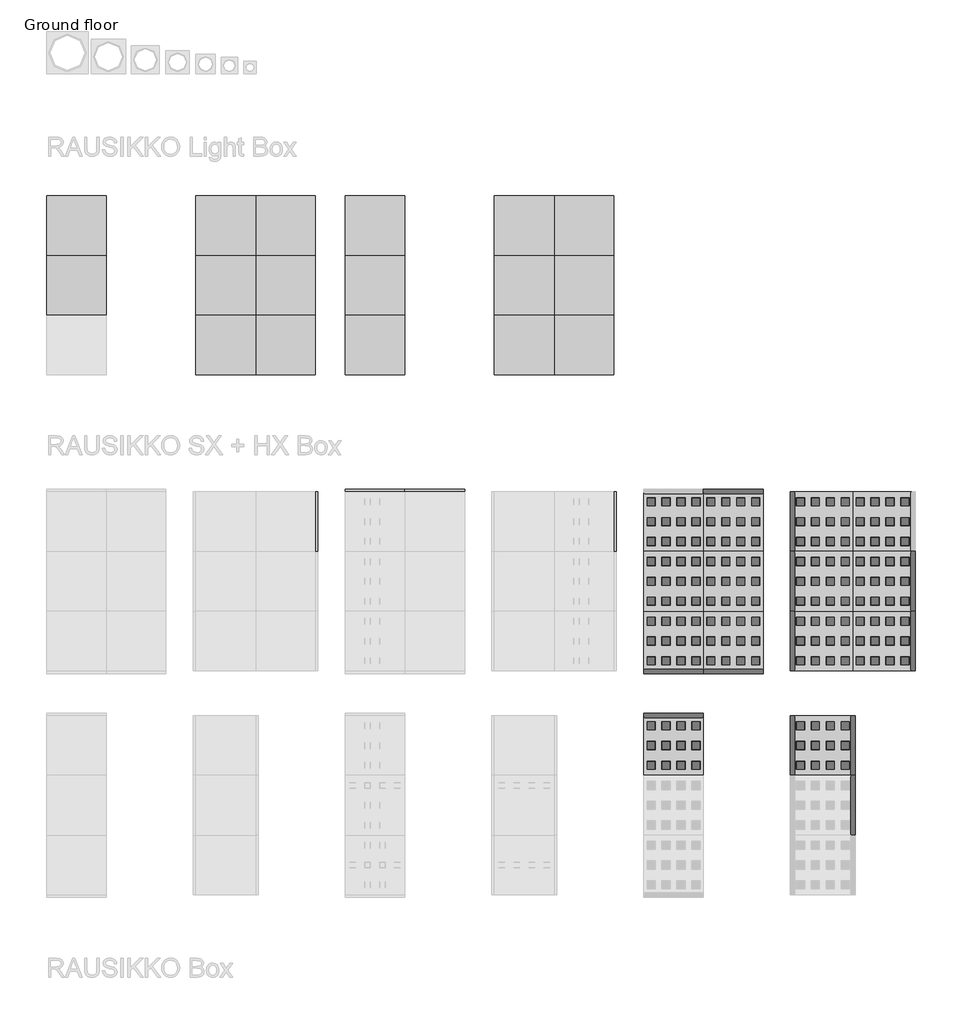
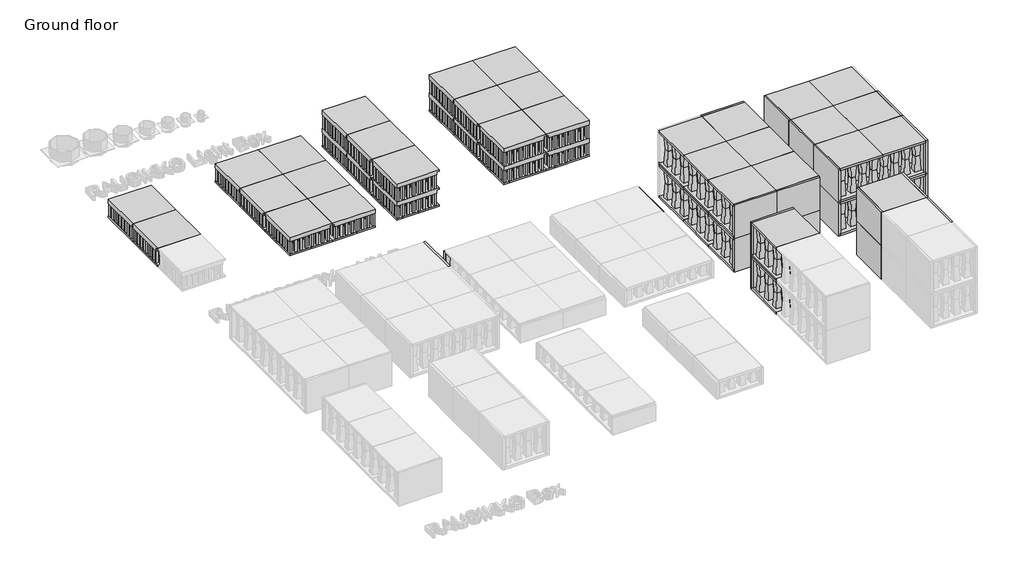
# One storey, part 8 of 14: 126 proxies.
"""IFC4 building model written with IfcOpenShell, lengths in millimetres."""

from ifc_helpers import new_model, si_unit, origin, place, context, project, spatial, transform, mapped, element, save
from components import generic_models_b9a53e04, generic_models_6f5a1653, generic_models_e933ea50, generic_models_dbaa58b3, rsk_element_fa4f0fc6, rsk_element_782520f1, rsk_sideelement_9117403f, rsk_sideelement_a1a50405

model = new_model("IFC4")

# Units and contexts
model_context = context("Model", 3, world=origin())
ifc_project = project(units=[si_unit("LENGTHUNIT", "METRE", prefix="MILLI")], contexts=[model_context])

# Site, building, storey
site = spatial("IfcSite", under=ifc_project)
building = spatial("IfcBuilding", under=site)
storey = spatial("IfcBuildingStorey", under=building, Name="Ground floor", Elevation=0.0)

# Proxies
placement = place(None, origin())
generic_models_shape = generic_models_b9a53e04(model_context)
element("IfcBuildingElementProxy", 1, Name="RSK LT Element : RSK LT Element", ObjectType="RSK LT Element : RSK LT Element", at=placement, inside=storey, context=model_context, shape_type="MappedRepresentation", body=[
    mapped(generic_models_shape, transform((0.0, 14765.0, 2.0), x_axis=(1.0, 0.0, 0.0), y_axis=(0.0, 1.0, 0.0), z_axis=(0.0, 0.0, 1.0))),
])
element("IfcBuildingElementProxy", 2, Name="RSK LT Element : RSK LT Element", ObjectType="RSK LT Element : RSK LT Element", at=placement, inside=storey, context=model_context, shape_type="MappedRepresentation", body=[
    mapped(generic_models_shape, transform((0.0, 15565.0, 2.0), x_axis=(1.0, 0.0, 0.0), y_axis=(0.0, 1.0, 0.0), z_axis=(0.0, 0.0, 1.0))),
])
element("IfcBuildingElementProxy", 3, Name="RSK LT Element : RSK LT Element", ObjectType="RSK LT Element : RSK LT Element", at=placement, inside=storey, context=model_context, shape_type="MappedRepresentation", body=[
    mapped(generic_models_shape, transform((2800.0, 13965.0, 2.0), x_axis=(0.0, 1.0, 0.0), y_axis=(-1.0, 0.0, 0.0), z_axis=(0.0, 0.0, 1.0))),
])
element("IfcBuildingElementProxy", 4, Name="RSK LT Element : RSK LT Element", ObjectType="RSK LT Element : RSK LT Element", at=placement, inside=storey, context=model_context, shape_type="MappedRepresentation", body=[
    mapped(generic_models_shape, transform((2000.0, 14765.0, 2.0), x_axis=(1.0, 0.0, 0.0), y_axis=(0.0, 1.0, 0.0), z_axis=(0.0, 0.0, 1.0))),
])
element("IfcBuildingElementProxy", 5, Name="RSK LT Element : RSK LT Element", ObjectType="RSK LT Element : RSK LT Element", at=placement, inside=storey, context=model_context, shape_type="MappedRepresentation", body=[
    mapped(generic_models_shape, transform((2000.0, 15565.0, 2.0), x_axis=(1.0, 0.0, 0.0), y_axis=(0.0, 1.0, 0.0), z_axis=(0.0, 0.0, 1.0))),
])
element("IfcBuildingElementProxy", 6, Name="RSK LT Element : RSK LT Element", ObjectType="RSK LT Element : RSK LT Element", at=placement, inside=storey, context=model_context, shape_type="MappedRepresentation", body=[
    mapped(generic_models_shape, transform((6800.0, 13965.0, 359.5), x_axis=(0.0, 1.0, 0.0), y_axis=(-1.0, 0.0, 0.0), z_axis=(0.0, 0.0, 1.0))),
])
element("IfcBuildingElementProxy", 7, Name="RSK LT Element : RSK LT Element", ObjectType="RSK LT Element : RSK LT Element", at=placement, inside=storey, context=model_context, shape_type="MappedRepresentation", body=[
    mapped(generic_models_shape, transform((4800.0, 13965.0, 2.0), x_axis=(0.0, 1.0, 0.0), y_axis=(-1.0, 0.0, 0.0), z_axis=(0.0, 0.0, 1.0))),
])
element("IfcBuildingElementProxy", 8, Name="RSK LT Element : RSK LT Element", ObjectType="RSK LT Element : RSK LT Element", at=placement, inside=storey, context=model_context, shape_type="MappedRepresentation", body=[
    mapped(generic_models_shape, transform((4800.0, 13965.0, 359.5), x_axis=(0.0, 1.0, 0.0), y_axis=(-1.0, 0.0, 0.0), z_axis=(0.0, 0.0, 1.0))),
])
element("IfcBuildingElementProxy", 9, Name="RSK LT Element : RSK LT Element", ObjectType="RSK LT Element : RSK LT Element", at=placement, inside=storey, context=model_context, shape_type="MappedRepresentation", body=[
    mapped(generic_models_shape, transform((4000.0, 14765.0, 2.0), x_axis=(1.0, 0.0, 0.0), y_axis=(0.0, 1.0, 0.0), z_axis=(0.0, 0.0, 1.0))),
])
element("IfcBuildingElementProxy", 10, Name="RSK LT Element : RSK LT Element", ObjectType="RSK LT Element : RSK LT Element", at=placement, inside=storey, context=model_context, shape_type="MappedRepresentation", body=[
    mapped(generic_models_shape, transform((6800.0, 13965.0, 2.0), x_axis=(0.0, 1.0, 0.0), y_axis=(-1.0, 0.0, 0.0), z_axis=(0.0, 0.0, 1.0))),
])
element("IfcBuildingElementProxy", 11, Name="RSK LT Element : RSK LT Element", ObjectType="RSK LT Element : RSK LT Element", at=placement, inside=storey, context=model_context, shape_type="MappedRepresentation", body=[
    mapped(generic_models_shape, transform((6000.0, 14765.0, 2.0), x_axis=(1.0, 0.0, 0.0), y_axis=(0.0, 1.0, 0.0), z_axis=(0.0, 0.0, 1.0))),
])
element("IfcBuildingElementProxy", 12, Name="RSK LT Element : RSK LT Element", ObjectType="RSK LT Element : RSK LT Element", at=placement, inside=storey, context=model_context, shape_type="MappedRepresentation", body=[
    mapped(generic_models_shape, transform((6000.0, 15565.0, 2.0), x_axis=(1.0, 0.0, 0.0), y_axis=(0.0, 1.0, 0.0), z_axis=(0.0, 0.0, 1.0))),
])
element("IfcBuildingElementProxy", 13, Name="RSK LT Element : RSK LT Element", ObjectType="RSK LT Element : RSK LT Element", at=placement, inside=storey, context=model_context, shape_type="MappedRepresentation", body=[
    mapped(generic_models_shape, transform((6000.0, 14765.0, 359.5), x_axis=(1.0, 0.0, 0.0), y_axis=(0.0, 1.0, 0.0), z_axis=(0.0, 0.0, 1.0))),
])
element("IfcBuildingElementProxy", 14, Name="RSK LT Element : RSK LT Element", ObjectType="RSK LT Element : RSK LT Element", at=placement, inside=storey, context=model_context, shape_type="MappedRepresentation", body=[
    mapped(generic_models_shape, transform((6000.0, 15565.0, 359.5), x_axis=(1.0, 0.0, 0.0), y_axis=(0.0, 1.0, 0.0), z_axis=(0.0, 0.0, 1.0))),
])
element("IfcBuildingElementProxy", 15, Name="RSK LT Element : RSK LT Element", ObjectType="RSK LT Element : RSK LT Element", at=placement, inside=storey, context=model_context, shape_type="MappedRepresentation", body=[
    mapped(generic_models_shape, transform((4000.0, 15565.0, 2.0), x_axis=(1.0, 0.0, 0.0), y_axis=(0.0, 1.0, 0.0), z_axis=(0.0, 0.0, 1.0))),
])
element("IfcBuildingElementProxy", 16, Name="RSK LT Element : RSK LT Element", ObjectType="RSK LT Element : RSK LT Element", at=placement, inside=storey, context=model_context, shape_type="MappedRepresentation", body=[
    mapped(generic_models_shape, transform((4000.0, 14765.0, 359.5), x_axis=(1.0, 0.0, 0.0), y_axis=(0.0, 1.0, 0.0), z_axis=(0.0, 0.0, 1.0))),
])
element("IfcBuildingElementProxy", 17, Name="RSK LT Element : RSK LT Element", ObjectType="RSK LT Element : RSK LT Element", at=placement, inside=storey, context=model_context, shape_type="MappedRepresentation", body=[
    mapped(generic_models_shape, transform((4000.0, 15565.0, 359.5), x_axis=(1.0, 0.0, 0.0), y_axis=(0.0, 1.0, 0.0), z_axis=(0.0, 0.0, 1.0))),
])
generic_models_2_shape = generic_models_6f5a1653(model_context)
element("IfcBuildingElementProxy", 18, Name="RSK LT BaseElement : RSK LT Element", ObjectType="RSK LT BaseElement : RSK LT Element", at=placement, inside=storey, context=model_context, shape_type="MappedRepresentation", body=[
    mapped(generic_models_2_shape, transform((0.0, 14765.0, 0.0), x_axis=(1.0, 0.0, 0.0), y_axis=(0.0, 1.0, 0.0), z_axis=(0.0, 0.0, 1.0))),
])
element("IfcBuildingElementProxy", 19, Name="RSK LT BaseElement : RSK LT Element", ObjectType="RSK LT BaseElement : RSK LT Element", at=placement, inside=storey, context=model_context, shape_type="MappedRepresentation", body=[
    mapped(generic_models_2_shape, transform((0.0, 15565.0, 0.0), x_axis=(1.0, 0.0, 0.0), y_axis=(0.0, 1.0, 0.0), z_axis=(0.0, 0.0, 1.0))),
])
element("IfcBuildingElementProxy", 20, Name="RSK LT BaseElement : RSK LT Element", ObjectType="RSK LT BaseElement : RSK LT Element", at=placement, inside=storey, context=model_context, shape_type="MappedRepresentation", body=[
    mapped(generic_models_2_shape, transform((2800.0, 13965.0, 0.0), x_axis=(0.0, 1.0, 0.0), y_axis=(-1.0, 0.0, 0.0), z_axis=(0.0, 0.0, 1.0))),
])
element("IfcBuildingElementProxy", 21, Name="RSK LT BaseElement : RSK LT Element", ObjectType="RSK LT BaseElement : RSK LT Element", at=placement, inside=storey, context=model_context, shape_type="MappedRepresentation", body=[
    mapped(generic_models_2_shape, transform((2000.0, 14765.0, 0.0), x_axis=(1.0, 0.0, 0.0), y_axis=(0.0, 1.0, 0.0), z_axis=(0.0, 0.0, 1.0))),
])
element("IfcBuildingElementProxy", 22, Name="RSK LT BaseElement : RSK LT Element", ObjectType="RSK LT BaseElement : RSK LT Element", at=placement, inside=storey, context=model_context, shape_type="MappedRepresentation", body=[
    mapped(generic_models_2_shape, transform((2000.0, 15565.0, 0.0), x_axis=(1.0, 0.0, 0.0), y_axis=(0.0, 1.0, 0.0), z_axis=(0.0, 0.0, 1.0))),
])
element("IfcBuildingElementProxy", 23, Name="RSK LT BaseElement : RSK LT Element", ObjectType="RSK LT BaseElement : RSK LT Element", at=placement, inside=storey, context=model_context, shape_type="MappedRepresentation", body=[
    mapped(generic_models_2_shape, transform((6800.0, 13965.0, 0.0), x_axis=(0.0, 1.0, 0.0), y_axis=(-1.0, 0.0, 0.0), z_axis=(0.0, 0.0, 1.0))),
])
element("IfcBuildingElementProxy", 24, Name="RSK LT BaseElement : RSK LT Element", ObjectType="RSK LT BaseElement : RSK LT Element", at=placement, inside=storey, context=model_context, shape_type="MappedRepresentation", body=[
    mapped(generic_models_2_shape, transform((4800.0, 13965.0, 0.0), x_axis=(0.0, 1.0, 0.0), y_axis=(-1.0, 0.0, 0.0), z_axis=(0.0, 0.0, 1.0))),
])
element("IfcBuildingElementProxy", 25, Name="RSK LT BaseElement : RSK LT Element", ObjectType="RSK LT BaseElement : RSK LT Element", at=placement, inside=storey, context=model_context, shape_type="MappedRepresentation", body=[
    mapped(generic_models_2_shape, transform((4000.0, 14765.0, 0.0), x_axis=(1.0, 0.0, 0.0), y_axis=(0.0, 1.0, 0.0), z_axis=(0.0, 0.0, 1.0))),
])
element("IfcBuildingElementProxy", 26, Name="RSK LT BaseElement : RSK LT Element", ObjectType="RSK LT BaseElement : RSK LT Element", at=placement, inside=storey, context=model_context, shape_type="MappedRepresentation", body=[
    mapped(generic_models_2_shape, transform((4000.0, 15565.0, 0.0), x_axis=(1.0, 0.0, 0.0), y_axis=(0.0, 1.0, 0.0), z_axis=(0.0, 0.0, 1.0))),
])
element("IfcBuildingElementProxy", 27, Name="RSK LT BaseElement : RSK LT Element", ObjectType="RSK LT BaseElement : RSK LT Element", at=placement, inside=storey, context=model_context, shape_type="MappedRepresentation", body=[
    mapped(generic_models_2_shape, transform((6000.0, 14765.0, 0.0), x_axis=(1.0, 0.0, 0.0), y_axis=(0.0, 1.0, 0.0), z_axis=(0.0, 0.0, 1.0))),
])
element("IfcBuildingElementProxy", 28, Name="RSK LT BaseElement : RSK LT Element", ObjectType="RSK LT BaseElement : RSK LT Element", at=placement, inside=storey, context=model_context, shape_type="MappedRepresentation", body=[
    mapped(generic_models_2_shape, transform((6000.0, 15565.0, 0.0), x_axis=(1.0, 0.0, 0.0), y_axis=(0.0, 1.0, 0.0), z_axis=(0.0, 0.0, 1.0))),
])
generic_models_3_shape = generic_models_e933ea50(model_context)
element("IfcBuildingElementProxy", 29, Name="RSK LT Element : RSK LT Element", ObjectType="RSK LT Element : RSK LT Element", at=placement, inside=storey, context=model_context, shape_type="MappedRepresentation", body=[
    mapped(generic_models_3_shape, transform((2800.0, 13965.0, 2.0), x_axis=(0.0, 1.0, 0.0), y_axis=(-1.0, 0.0, 0.0), z_axis=(0.0, 0.0, 1.0))),
])
element("IfcBuildingElementProxy", 30, Name="RSK LT Element : RSK LT Element", ObjectType="RSK LT Element : RSK LT Element", at=placement, inside=storey, context=model_context, shape_type="MappedRepresentation", body=[
    mapped(generic_models_3_shape, transform((6800.0, 13965.0, 359.5), x_axis=(0.0, 1.0, 0.0), y_axis=(-1.0, 0.0, 0.0), z_axis=(0.0, 0.0, 1.0))),
])
element("IfcBuildingElementProxy", 31, Name="RSK LT Element : RSK LT Element", ObjectType="RSK LT Element : RSK LT Element", at=placement, inside=storey, context=model_context, shape_type="MappedRepresentation", body=[
    mapped(generic_models_3_shape, transform((6800.0, 13965.0, 2.0), x_axis=(0.0, 1.0, 0.0), y_axis=(-1.0, 0.0, 0.0), z_axis=(0.0, 0.0, 1.0))),
])
element("IfcBuildingElementProxy", 32, Name="RSK LT Element : RSK LT Element", ObjectType="RSK LT Element : RSK LT Element", at=placement, inside=storey, context=model_context, shape_type="MappedRepresentation", body=[
    mapped(generic_models_3_shape, transform((3600.0, 14765.0, 2.0), x_axis=(-1.0, 0.0, 0.0), y_axis=(0.0, -1.0, 0.0), z_axis=(0.0, 0.0, 1.0))),
])
element("IfcBuildingElementProxy", 33, Name="RSK LT Element : RSK LT Element", ObjectType="RSK LT Element : RSK LT Element", at=placement, inside=storey, context=model_context, shape_type="MappedRepresentation", body=[
    mapped(generic_models_3_shape, transform((3600.0, 15565.0, 2.0), x_axis=(-1.0, 0.0, 0.0), y_axis=(0.0, -1.0, 0.0), z_axis=(0.0, 0.0, 1.0))),
])
element("IfcBuildingElementProxy", 34, Name="RSK LT Element : RSK LT Element", ObjectType="RSK LT Element : RSK LT Element", at=placement, inside=storey, context=model_context, shape_type="MappedRepresentation", body=[
    mapped(generic_models_3_shape, transform((7600.0, 14765.0, 2.0), x_axis=(-1.0, 0.0, 0.0), y_axis=(0.0, -1.0, 0.0), z_axis=(0.0, 0.0, 1.0))),
])
element("IfcBuildingElementProxy", 35, Name="RSK LT Element : RSK LT Element", ObjectType="RSK LT Element : RSK LT Element", at=placement, inside=storey, context=model_context, shape_type="MappedRepresentation", body=[
    mapped(generic_models_3_shape, transform((7600.0, 15565.0, 2.0), x_axis=(-1.0, 0.0, 0.0), y_axis=(0.0, -1.0, 0.0), z_axis=(0.0, 0.0, 1.0))),
])
element("IfcBuildingElementProxy", 36, Name="RSK LT Element : RSK LT Element", ObjectType="RSK LT Element : RSK LT Element", at=placement, inside=storey, context=model_context, shape_type="MappedRepresentation", body=[
    mapped(generic_models_3_shape, transform((7600.0, 14765.0, 359.5), x_axis=(-1.0, 0.0, 0.0), y_axis=(0.0, -1.0, 0.0), z_axis=(0.0, 0.0, 1.0))),
])
element("IfcBuildingElementProxy", 37, Name="RSK LT Element : RSK LT Element", ObjectType="RSK LT Element : RSK LT Element", at=placement, inside=storey, context=model_context, shape_type="MappedRepresentation", body=[
    mapped(generic_models_3_shape, transform((7600.0, 15565.0, 359.5), x_axis=(-1.0, 0.0, 0.0), y_axis=(0.0, -1.0, 0.0), z_axis=(0.0, 0.0, 1.0))),
])
generic_models_4_shape = generic_models_dbaa58b3(model_context)
element("IfcBuildingElementProxy", 38, Name="RSK LT BaseElement : RSK LT Element", ObjectType="RSK LT BaseElement : RSK LT Element", at=placement, inside=storey, context=model_context, shape_type="MappedRepresentation", body=[
    mapped(generic_models_4_shape, transform((2800.0, 13965.0, 0.0), x_axis=(0.0, 1.0, 0.0), y_axis=(-1.0, 0.0, 0.0), z_axis=(0.0, 0.0, 1.0))),
])
element("IfcBuildingElementProxy", 39, Name="RSK LT BaseElement : RSK LT Element", ObjectType="RSK LT BaseElement : RSK LT Element", at=placement, inside=storey, context=model_context, shape_type="MappedRepresentation", body=[
    mapped(generic_models_4_shape, transform((3600.0, 14765.0, 0.0), x_axis=(-1.0, 0.0, 0.0), y_axis=(0.0, -1.0, 0.0), z_axis=(0.0, 0.0, 1.0))),
])
element("IfcBuildingElementProxy", 40, Name="RSK LT BaseElement : RSK LT Element", ObjectType="RSK LT BaseElement : RSK LT Element", at=placement, inside=storey, context=model_context, shape_type="MappedRepresentation", body=[
    mapped(generic_models_4_shape, transform((6800.0, 13965.0, 0.0), x_axis=(0.0, 1.0, 0.0), y_axis=(-1.0, 0.0, 0.0), z_axis=(0.0, 0.0, 1.0))),
])
element("IfcBuildingElementProxy", 41, Name="RSK LT BaseElement : RSK LT Element", ObjectType="RSK LT BaseElement : RSK LT Element", at=placement, inside=storey, context=model_context, shape_type="MappedRepresentation", body=[
    mapped(generic_models_4_shape, transform((7600.0, 14765.0, 0.0), x_axis=(-1.0, 0.0, 0.0), y_axis=(0.0, -1.0, 0.0), z_axis=(0.0, 0.0, 1.0))),
])
element("IfcBuildingElementProxy", 42, Name="RSK LT BaseElement : RSK LT Element", ObjectType="RSK LT BaseElement : RSK LT Element", at=placement, inside=storey, context=model_context, shape_type="MappedRepresentation", body=[
    mapped(generic_models_4_shape, transform((3600.0, 15565.0, 0.0), x_axis=(-1.0, 0.0, 0.0), y_axis=(0.0, -1.0, 0.0), z_axis=(0.0, 0.0, 1.0))),
])
element("IfcBuildingElementProxy", 43, Name="RSK LT BaseElement : RSK LT Element", ObjectType="RSK LT BaseElement : RSK LT Element", at=placement, inside=storey, context=model_context, shape_type="MappedRepresentation", body=[
    mapped(generic_models_4_shape, transform((7600.0, 15565.0, 0.0), x_axis=(-1.0, 0.0, 0.0), y_axis=(0.0, -1.0, 0.0), z_axis=(0.0, 0.0, 1.0))),
])
rsk_element_shape = rsk_element_fa4f0fc6(model_context)
element("IfcBuildingElementProxy", 44, Name="RAUSIKKO SX+HX Element : RSK Element", ObjectType="RAUSIKKO SX+HX Element : RSK Element", at=placement, inside=storey, context=model_context, shape_type="MappedRepresentation", body=[
    mapped(rsk_element_shape, transform((8000.0, 8600.0, 660.0), x_axis=(1.0, 0.0, 0.0), y_axis=(0.0, -1.0, 0.0), z_axis=(0.0, 0.0, -1.0))),
])
element("IfcBuildingElementProxy", 45, Name="RAUSIKKO SX+HX Element : RSK Element", ObjectType="RAUSIKKO SX+HX Element : RSK Element", at=placement, inside=storey, context=model_context, shape_type="MappedRepresentation", body=[
    mapped(rsk_element_shape, transform((8000.0, 8600.0, 1320.0), x_axis=(1.0, 0.0, 0.0), y_axis=(0.0, -1.0, 0.0), z_axis=(0.0, 0.0, -1.0))),
])
element("IfcBuildingElementProxy", 46, Name="RAUSIKKO SX+HX Element : RSK Element", ObjectType="RAUSIKKO SX+HX Element : RSK Element", at=placement, inside=storey, context=model_context, shape_type="MappedRepresentation", body=[
    mapped(rsk_element_shape, transform((8000.0, 10000.0, 1320.0), x_axis=(1.0, 0.0, 0.0), y_axis=(0.0, -1.0, 0.0), z_axis=(0.0, 0.0, -1.0))),
])
element("IfcBuildingElementProxy", 47, Name="RAUSIKKO SX+HX Element : RSK Element", ObjectType="RAUSIKKO SX+HX Element : RSK Element", at=placement, inside=storey, context=model_context, shape_type="MappedRepresentation", body=[
    mapped(rsk_element_shape, transform((8000.0, 11600.0, 1320.0), x_axis=(1.0, 0.0, 0.0), y_axis=(0.0, -1.0, 0.0), z_axis=(0.0, 0.0, -1.0))),
])
element("IfcBuildingElementProxy", 48, Name="RAUSIKKO SX+HX Element : RSK Element", ObjectType="RAUSIKKO SX+HX Element : RSK Element", at=placement, inside=storey, context=model_context, shape_type="MappedRepresentation", body=[
    mapped(rsk_element_shape, transform((8000.0, 10000.0, 660.0), x_axis=(1.0, 0.0, 0.0), y_axis=(0.0, -1.0, 0.0), z_axis=(0.0, 0.0, -1.0))),
])
element("IfcBuildingElementProxy", 49, Name="RAUSIKKO SX+HX Element : RSK Element", ObjectType="RAUSIKKO SX+HX Element : RSK Element", at=placement, inside=storey, context=model_context, shape_type="MappedRepresentation", body=[
    mapped(rsk_element_shape, transform((8000.0, 11600.0, 660.0), x_axis=(1.0, 0.0, 0.0), y_axis=(0.0, -1.0, 0.0), z_axis=(0.0, 0.0, -1.0))),
])
element("IfcBuildingElementProxy", 50, Name="RAUSIKKO SX+HX Element : RSK Element", ObjectType="RAUSIKKO SX+HX Element : RSK Element", at=placement, inside=storey, context=model_context, shape_type="MappedRepresentation", body=[
    mapped(rsk_element_shape, transform((8800.0, 10800.0, 1320.0), x_axis=(1.0, 0.0, 0.0), y_axis=(0.0, -1.0, 0.0), z_axis=(0.0, 0.0, -1.0))),
])
element("IfcBuildingElementProxy", 51, Name="RAUSIKKO SX+HX Element : RSK Element", ObjectType="RAUSIKKO SX+HX Element : RSK Element", at=placement, inside=storey, context=model_context, shape_type="MappedRepresentation", body=[
    mapped(rsk_element_shape, transform((8800.0, 10000.0, 1320.0), x_axis=(1.0, 0.0, 0.0), y_axis=(0.0, -1.0, 0.0), z_axis=(0.0, 0.0, -1.0))),
])
element("IfcBuildingElementProxy", 52, Name="RAUSIKKO SX+HX Element : RSK Element", ObjectType="RAUSIKKO SX+HX Element : RSK Element", at=placement, inside=storey, context=model_context, shape_type="MappedRepresentation", body=[
    mapped(rsk_element_shape, transform((8800.0, 11600.0, 1320.0), x_axis=(1.0, 0.0, 0.0), y_axis=(0.0, -1.0, 0.0), z_axis=(0.0, 0.0, -1.0))),
])
element("IfcBuildingElementProxy", 53, Name="RAUSIKKO SX+HX Element : RSK Element", ObjectType="RAUSIKKO SX+HX Element : RSK Element", at=placement, inside=storey, context=model_context, shape_type="MappedRepresentation", body=[
    mapped(rsk_element_shape, transform((8000.0, 10800.0, 1320.0), x_axis=(1.0, 0.0, 0.0), y_axis=(0.0, -1.0, 0.0), z_axis=(0.0, 0.0, -1.0))),
])
element("IfcBuildingElementProxy", 54, Name="RAUSIKKO SX+HX Element : RSK Element", ObjectType="RAUSIKKO SX+HX Element : RSK Element", at=placement, inside=storey, context=model_context, shape_type="MappedRepresentation", body=[
    mapped(rsk_element_shape, transform((8800.0, 10800.0, 660.0), x_axis=(1.0, 0.0, 0.0), y_axis=(0.0, -1.0, 0.0), z_axis=(0.0, 0.0, -1.0))),
])
element("IfcBuildingElementProxy", 55, Name="RAUSIKKO SX+HX Element : RSK Element", ObjectType="RAUSIKKO SX+HX Element : RSK Element", at=placement, inside=storey, context=model_context, shape_type="MappedRepresentation", body=[
    mapped(rsk_element_shape, transform((8800.0, 10000.0, 660.0), x_axis=(1.0, 0.0, 0.0), y_axis=(0.0, -1.0, 0.0), z_axis=(0.0, 0.0, -1.0))),
])
element("IfcBuildingElementProxy", 56, Name="RAUSIKKO SX+HX Element : RSK Element", ObjectType="RAUSIKKO SX+HX Element : RSK Element", at=placement, inside=storey, context=model_context, shape_type="MappedRepresentation", body=[
    mapped(rsk_element_shape, transform((8800.0, 11600.0, 660.0), x_axis=(1.0, 0.0, 0.0), y_axis=(0.0, -1.0, 0.0), z_axis=(0.0, 0.0, -1.0))),
])
element("IfcBuildingElementProxy", 57, Name="RAUSIKKO SX+HX Element : RSK Element", ObjectType="RAUSIKKO SX+HX Element : RSK Element", at=placement, inside=storey, context=model_context, shape_type="MappedRepresentation", body=[
    mapped(rsk_element_shape, transform((8000.0, 10800.0, 660.0), x_axis=(1.0, 0.0, 0.0), y_axis=(0.0, -1.0, 0.0), z_axis=(0.0, 0.0, -1.0))),
])
element("IfcBuildingElementProxy", 58, Name="RAUSIKKO SX+HX Element : RSK Element", ObjectType="RAUSIKKO SX+HX Element : RSK Element", at=placement, inside=storey, context=model_context, shape_type="MappedRepresentation", body=[
    mapped(rsk_element_shape, transform((10000.0, 8600.0, 1320.0), x_axis=(1.0, 0.0, 0.0), y_axis=(0.0, -1.0, 0.0), z_axis=(0.0, 0.0, -1.0))),
])
element("IfcBuildingElementProxy", 59, Name="RAUSIKKO SX+HX Element : RSK Element", ObjectType="RAUSIKKO SX+HX Element : RSK Element", at=placement, inside=storey, context=model_context, shape_type="MappedRepresentation", body=[
    mapped(rsk_element_shape, transform((10000.0, 8600.0, 660.0), x_axis=(1.0, 0.0, 0.0), y_axis=(0.0, -1.0, 0.0), z_axis=(0.0, 0.0, -1.0))),
])
element("IfcBuildingElementProxy", 60, Name="RAUSIKKO SX+HX Element : RSK Element", ObjectType="RAUSIKKO SX+HX Element : RSK Element", at=placement, inside=storey, context=model_context, shape_type="MappedRepresentation", body=[
    mapped(rsk_element_shape, transform((10000.0, 10000.0, 1320.0), x_axis=(1.0, 0.0, 0.0), y_axis=(0.0, -1.0, 0.0), z_axis=(0.0, 0.0, -1.0))),
])
element("IfcBuildingElementProxy", 61, Name="RAUSIKKO SX+HX Element : RSK Element", ObjectType="RAUSIKKO SX+HX Element : RSK Element", at=placement, inside=storey, context=model_context, shape_type="MappedRepresentation", body=[
    mapped(rsk_element_shape, transform((10000.0, 11600.0, 1320.0), x_axis=(1.0, 0.0, 0.0), y_axis=(0.0, -1.0, 0.0), z_axis=(0.0, 0.0, -1.0))),
])
element("IfcBuildingElementProxy", 62, Name="RAUSIKKO SX+HX Element : RSK Element", ObjectType="RAUSIKKO SX+HX Element : RSK Element", at=placement, inside=storey, context=model_context, shape_type="MappedRepresentation", body=[
    mapped(rsk_element_shape, transform((10000.0, 10000.0, 660.0), x_axis=(1.0, 0.0, 0.0), y_axis=(0.0, -1.0, 0.0), z_axis=(0.0, 0.0, -1.0))),
])
element("IfcBuildingElementProxy", 63, Name="RAUSIKKO SX+HX Element : RSK Element", ObjectType="RAUSIKKO SX+HX Element : RSK Element", at=placement, inside=storey, context=model_context, shape_type="MappedRepresentation", body=[
    mapped(rsk_element_shape, transform((10000.0, 11600.0, 660.0), x_axis=(1.0, 0.0, 0.0), y_axis=(0.0, -1.0, 0.0), z_axis=(0.0, 0.0, -1.0))),
])
element("IfcBuildingElementProxy", 64, Name="RAUSIKKO SX+HX Element : RSK Element", ObjectType="RAUSIKKO SX+HX Element : RSK Element", at=placement, inside=storey, context=model_context, shape_type="MappedRepresentation", body=[
    mapped(rsk_element_shape, transform((10800.0, 10800.0, 1320.0), x_axis=(1.0, 0.0, 0.0), y_axis=(0.0, -1.0, 0.0), z_axis=(0.0, 0.0, -1.0))),
])
element("IfcBuildingElementProxy", 65, Name="RAUSIKKO SX+HX Element : RSK Element", ObjectType="RAUSIKKO SX+HX Element : RSK Element", at=placement, inside=storey, context=model_context, shape_type="MappedRepresentation", body=[
    mapped(rsk_element_shape, transform((10800.0, 10000.0, 1320.0), x_axis=(1.0, 0.0, 0.0), y_axis=(0.0, -1.0, 0.0), z_axis=(0.0, 0.0, -1.0))),
])
element("IfcBuildingElementProxy", 66, Name="RAUSIKKO SX+HX Element : RSK Element", ObjectType="RAUSIKKO SX+HX Element : RSK Element", at=placement, inside=storey, context=model_context, shape_type="MappedRepresentation", body=[
    mapped(rsk_element_shape, transform((10800.0, 11600.0, 1320.0), x_axis=(1.0, 0.0, 0.0), y_axis=(0.0, -1.0, 0.0), z_axis=(0.0, 0.0, -1.0))),
])
element("IfcBuildingElementProxy", 67, Name="RAUSIKKO SX+HX Element : RSK Element", ObjectType="RAUSIKKO SX+HX Element : RSK Element", at=placement, inside=storey, context=model_context, shape_type="MappedRepresentation", body=[
    mapped(rsk_element_shape, transform((10000.0, 10800.0, 1320.0), x_axis=(1.0, 0.0, 0.0), y_axis=(0.0, -1.0, 0.0), z_axis=(0.0, 0.0, -1.0))),
])
element("IfcBuildingElementProxy", 68, Name="RAUSIKKO SX+HX Element : RSK Element", ObjectType="RAUSIKKO SX+HX Element : RSK Element", at=placement, inside=storey, context=model_context, shape_type="MappedRepresentation", body=[
    mapped(rsk_element_shape, transform((10800.0, 10800.0, 660.0), x_axis=(1.0, 0.0, 0.0), y_axis=(0.0, -1.0, 0.0), z_axis=(0.0, 0.0, -1.0))),
])
element("IfcBuildingElementProxy", 69, Name="RAUSIKKO SX+HX Element : RSK Element", ObjectType="RAUSIKKO SX+HX Element : RSK Element", at=placement, inside=storey, context=model_context, shape_type="MappedRepresentation", body=[
    mapped(rsk_element_shape, transform((10800.0, 10000.0, 660.0), x_axis=(1.0, 0.0, 0.0), y_axis=(0.0, -1.0, 0.0), z_axis=(0.0, 0.0, -1.0))),
])
element("IfcBuildingElementProxy", 70, Name="RAUSIKKO SX+HX Element : RSK Element", ObjectType="RAUSIKKO SX+HX Element : RSK Element", at=placement, inside=storey, context=model_context, shape_type="MappedRepresentation", body=[
    mapped(rsk_element_shape, transform((10800.0, 11600.0, 660.0), x_axis=(1.0, 0.0, 0.0), y_axis=(0.0, -1.0, 0.0), z_axis=(0.0, 0.0, -1.0))),
])
element("IfcBuildingElementProxy", 71, Name="RAUSIKKO SX+HX Element : RSK Element", ObjectType="RAUSIKKO SX+HX Element : RSK Element", at=placement, inside=storey, context=model_context, shape_type="MappedRepresentation", body=[
    mapped(rsk_element_shape, transform((10000.0, 10800.0, 660.0), x_axis=(1.0, 0.0, 0.0), y_axis=(0.0, -1.0, 0.0), z_axis=(0.0, 0.0, -1.0))),
])
rsk_element_2_shape = rsk_element_782520f1(model_context)
element("IfcBuildingElementProxy", 72, Name="RAUSIKKO SX+HX Element : RSK Element", ObjectType="RAUSIKKO SX+HX Element : RSK Element", at=placement, inside=storey, context=model_context, shape_type="MappedRepresentation", body=[
    mapped(rsk_element_2_shape, transform((10000.0, 8600.0, 660.0), x_axis=(1.0, 0.0, 0.0), y_axis=(0.0, 1.0, 0.0), z_axis=(0.0, 0.0, 1.0))),
])
element("IfcBuildingElementProxy", 73, Name="RAUSIKKO SX+HX Element : RSK Element", ObjectType="RAUSIKKO SX+HX Element : RSK Element", at=placement, inside=storey, context=model_context, shape_type="MappedRepresentation", body=[
    mapped(rsk_element_2_shape, transform((10000.0, 8600.0, 0.0), x_axis=(1.0, 0.0, 0.0), y_axis=(0.0, 1.0, 0.0), z_axis=(0.0, 0.0, 1.0))),
])
element("IfcBuildingElementProxy", 74, Name="RAUSIKKO SX+HX Element : RSK Element", ObjectType="RAUSIKKO SX+HX Element : RSK Element", at=placement, inside=storey, context=model_context, shape_type="MappedRepresentation", body=[
    mapped(rsk_element_2_shape, transform((10000.0, 11600.0, 660.0), x_axis=(1.0, 0.0, 0.0), y_axis=(0.0, 1.0, 0.0), z_axis=(0.0, 0.0, 1.0))),
])
element("IfcBuildingElementProxy", 75, Name="RAUSIKKO SX+HX Element : RSK Element", ObjectType="RAUSIKKO SX+HX Element : RSK Element", at=placement, inside=storey, context=model_context, shape_type="MappedRepresentation", body=[
    mapped(rsk_element_2_shape, transform((10000.0, 11600.0, 0.0), x_axis=(1.0, 0.0, 0.0), y_axis=(0.0, 1.0, 0.0), z_axis=(0.0, 0.0, 1.0))),
])
element("IfcBuildingElementProxy", 76, Name="RAUSIKKO SX+HX Element : RSK Element", ObjectType="RAUSIKKO SX+HX Element : RSK Element", at=placement, inside=storey, context=model_context, shape_type="MappedRepresentation", body=[
    mapped(rsk_element_2_shape, transform((10000.0, 10800.0, 660.0), x_axis=(1.0, 0.0, 0.0), y_axis=(0.0, 1.0, 0.0), z_axis=(0.0, 0.0, 1.0))),
])
element("IfcBuildingElementProxy", 77, Name="RAUSIKKO SX+HX Element : RSK Element", ObjectType="RAUSIKKO SX+HX Element : RSK Element", at=placement, inside=storey, context=model_context, shape_type="MappedRepresentation", body=[
    mapped(rsk_element_2_shape, transform((10000.0, 10000.0, 660.0), x_axis=(1.0, 0.0, 0.0), y_axis=(0.0, 1.0, 0.0), z_axis=(0.0, 0.0, 1.0))),
])
element("IfcBuildingElementProxy", 78, Name="RAUSIKKO SX+HX Element : RSK Element", ObjectType="RAUSIKKO SX+HX Element : RSK Element", at=placement, inside=storey, context=model_context, shape_type="MappedRepresentation", body=[
    mapped(rsk_element_2_shape, transform((10800.0, 11600.0, 660.0), x_axis=(1.0, 0.0, 0.0), y_axis=(0.0, 1.0, 0.0), z_axis=(0.0, 0.0, 1.0))),
])
element("IfcBuildingElementProxy", 79, Name="RAUSIKKO SX+HX Element : RSK Element", ObjectType="RAUSIKKO SX+HX Element : RSK Element", at=placement, inside=storey, context=model_context, shape_type="MappedRepresentation", body=[
    mapped(rsk_element_2_shape, transform((10800.0, 10800.0, 660.0), x_axis=(1.0, 0.0, 0.0), y_axis=(0.0, 1.0, 0.0), z_axis=(0.0, 0.0, 1.0))),
])
element("IfcBuildingElementProxy", 80, Name="RAUSIKKO SX+HX Element : RSK Element", ObjectType="RAUSIKKO SX+HX Element : RSK Element", at=placement, inside=storey, context=model_context, shape_type="MappedRepresentation", body=[
    mapped(rsk_element_2_shape, transform((10800.0, 10000.0, 660.0), x_axis=(1.0, 0.0, 0.0), y_axis=(0.0, 1.0, 0.0), z_axis=(0.0, 0.0, 1.0))),
])
element("IfcBuildingElementProxy", 81, Name="RAUSIKKO SX+HX Element : RSK Element", ObjectType="RAUSIKKO SX+HX Element : RSK Element", at=placement, inside=storey, context=model_context, shape_type="MappedRepresentation", body=[
    mapped(rsk_element_2_shape, transform((10000.0, 10800.0, 0.0), x_axis=(1.0, 0.0, 0.0), y_axis=(0.0, 1.0, 0.0), z_axis=(0.0, 0.0, 1.0))),
])
element("IfcBuildingElementProxy", 82, Name="RAUSIKKO SX+HX Element : RSK Element", ObjectType="RAUSIKKO SX+HX Element : RSK Element", at=placement, inside=storey, context=model_context, shape_type="MappedRepresentation", body=[
    mapped(rsk_element_2_shape, transform((10000.0, 10000.0, 0.0), x_axis=(1.0, 0.0, 0.0), y_axis=(0.0, 1.0, 0.0), z_axis=(0.0, 0.0, 1.0))),
])
element("IfcBuildingElementProxy", 83, Name="RAUSIKKO SX+HX Element : RSK Element", ObjectType="RAUSIKKO SX+HX Element : RSK Element", at=placement, inside=storey, context=model_context, shape_type="MappedRepresentation", body=[
    mapped(rsk_element_2_shape, transform((10800.0, 11600.0, 0.0), x_axis=(1.0, 0.0, 0.0), y_axis=(0.0, 1.0, 0.0), z_axis=(0.0, 0.0, 1.0))),
])
element("IfcBuildingElementProxy", 84, Name="RAUSIKKO SX+HX Element : RSK Element", ObjectType="RAUSIKKO SX+HX Element : RSK Element", at=placement, inside=storey, context=model_context, shape_type="MappedRepresentation", body=[
    mapped(rsk_element_2_shape, transform((10800.0, 10800.0, 0.0), x_axis=(1.0, 0.0, 0.0), y_axis=(0.0, 1.0, 0.0), z_axis=(0.0, 0.0, 1.0))),
])
element("IfcBuildingElementProxy", 85, Name="RAUSIKKO SX+HX Element : RSK Element", ObjectType="RAUSIKKO SX+HX Element : RSK Element", at=placement, inside=storey, context=model_context, shape_type="MappedRepresentation", body=[
    mapped(rsk_element_2_shape, transform((10800.0, 10000.0, 0.0), x_axis=(1.0, 0.0, 0.0), y_axis=(0.0, 1.0, 0.0), z_axis=(0.0, 0.0, 1.0))),
])
element("IfcBuildingElementProxy", 86, Name="RAUSIKKO SX+HX Element : RSK Element", ObjectType="RAUSIKKO SX+HX Element : RSK Element", at=placement, inside=storey, context=model_context, shape_type="MappedRepresentation", body=[
    mapped(rsk_element_2_shape, transform((8000.0, 8600.0, 0.0), x_axis=(1.0, 0.0, 0.0), y_axis=(0.0, 1.0, 0.0), z_axis=(0.0, 0.0, 1.0))),
])
element("IfcBuildingElementProxy", 87, Name="RAUSIKKO SX+HX Element : RSK Element", ObjectType="RAUSIKKO SX+HX Element : RSK Element", at=placement, inside=storey, context=model_context, shape_type="MappedRepresentation", body=[
    mapped(rsk_element_2_shape, transform((8000.0, 8600.0, 660.0), x_axis=(1.0, 0.0, 0.0), y_axis=(0.0, 1.0, 0.0), z_axis=(0.0, 0.0, 1.0))),
])
element("IfcBuildingElementProxy", 88, Name="RAUSIKKO SX+HX Element : RSK Element", ObjectType="RAUSIKKO SX+HX Element : RSK Element", at=placement, inside=storey, context=model_context, shape_type="MappedRepresentation", body=[
    mapped(rsk_element_2_shape, transform((8000.0, 11600.0, 660.0), x_axis=(1.0, 0.0, 0.0), y_axis=(0.0, 1.0, 0.0), z_axis=(0.0, 0.0, 1.0))),
])
element("IfcBuildingElementProxy", 89, Name="RAUSIKKO SX+HX Element : RSK Element", ObjectType="RAUSIKKO SX+HX Element : RSK Element", at=placement, inside=storey, context=model_context, shape_type="MappedRepresentation", body=[
    mapped(rsk_element_2_shape, transform((8000.0, 11600.0, 0.0), x_axis=(1.0, 0.0, 0.0), y_axis=(0.0, 1.0, 0.0), z_axis=(0.0, 0.0, 1.0))),
])
element("IfcBuildingElementProxy", 90, Name="RAUSIKKO SX+HX Element : RSK Element", ObjectType="RAUSIKKO SX+HX Element : RSK Element", at=placement, inside=storey, context=model_context, shape_type="MappedRepresentation", body=[
    mapped(rsk_element_2_shape, transform((8000.0, 10800.0, 660.0), x_axis=(1.0, 0.0, 0.0), y_axis=(0.0, 1.0, 0.0), z_axis=(0.0, 0.0, 1.0))),
])
element("IfcBuildingElementProxy", 91, Name="RAUSIKKO SX+HX Element : RSK Element", ObjectType="RAUSIKKO SX+HX Element : RSK Element", at=placement, inside=storey, context=model_context, shape_type="MappedRepresentation", body=[
    mapped(rsk_element_2_shape, transform((8000.0, 10000.0, 660.0), x_axis=(1.0, 0.0, 0.0), y_axis=(0.0, 1.0, 0.0), z_axis=(0.0, 0.0, 1.0))),
])
element("IfcBuildingElementProxy", 92, Name="RAUSIKKO SX+HX Element : RSK Element", ObjectType="RAUSIKKO SX+HX Element : RSK Element", at=placement, inside=storey, context=model_context, shape_type="MappedRepresentation", body=[
    mapped(rsk_element_2_shape, transform((8800.0, 11600.0, 660.0), x_axis=(1.0, 0.0, 0.0), y_axis=(0.0, 1.0, 0.0), z_axis=(0.0, 0.0, 1.0))),
])
element("IfcBuildingElementProxy", 93, Name="RAUSIKKO SX+HX Element : RSK Element", ObjectType="RAUSIKKO SX+HX Element : RSK Element", at=placement, inside=storey, context=model_context, shape_type="MappedRepresentation", body=[
    mapped(rsk_element_2_shape, transform((8800.0, 10800.0, 660.0), x_axis=(1.0, 0.0, 0.0), y_axis=(0.0, 1.0, 0.0), z_axis=(0.0, 0.0, 1.0))),
])
element("IfcBuildingElementProxy", 94, Name="RAUSIKKO SX+HX Element : RSK Element", ObjectType="RAUSIKKO SX+HX Element : RSK Element", at=placement, inside=storey, context=model_context, shape_type="MappedRepresentation", body=[
    mapped(rsk_element_2_shape, transform((8800.0, 10000.0, 660.0), x_axis=(1.0, 0.0, 0.0), y_axis=(0.0, 1.0, 0.0), z_axis=(0.0, 0.0, 1.0))),
])
element("IfcBuildingElementProxy", 95, Name="RAUSIKKO SX+HX Element : RSK Element", ObjectType="RAUSIKKO SX+HX Element : RSK Element", at=placement, inside=storey, context=model_context, shape_type="MappedRepresentation", body=[
    mapped(rsk_element_2_shape, transform((8000.0, 10800.0, 0.0), x_axis=(1.0, 0.0, 0.0), y_axis=(0.0, 1.0, 0.0), z_axis=(0.0, 0.0, 1.0))),
])
element("IfcBuildingElementProxy", 96, Name="RAUSIKKO SX+HX Element : RSK Element", ObjectType="RAUSIKKO SX+HX Element : RSK Element", at=placement, inside=storey, context=model_context, shape_type="MappedRepresentation", body=[
    mapped(rsk_element_2_shape, transform((8000.0, 10000.0, 0.0), x_axis=(1.0, 0.0, 0.0), y_axis=(0.0, 1.0, 0.0), z_axis=(0.0, 0.0, 1.0))),
])
element("IfcBuildingElementProxy", 97, Name="RAUSIKKO SX+HX Element : RSK Element", ObjectType="RAUSIKKO SX+HX Element : RSK Element", at=placement, inside=storey, context=model_context, shape_type="MappedRepresentation", body=[
    mapped(rsk_element_2_shape, transform((8800.0, 11600.0, 0.0), x_axis=(1.0, 0.0, 0.0), y_axis=(0.0, 1.0, 0.0), z_axis=(0.0, 0.0, 1.0))),
])
element("IfcBuildingElementProxy", 98, Name="RAUSIKKO SX+HX Element : RSK Element", ObjectType="RAUSIKKO SX+HX Element : RSK Element", at=placement, inside=storey, context=model_context, shape_type="MappedRepresentation", body=[
    mapped(rsk_element_2_shape, transform((8800.0, 10800.0, 0.0), x_axis=(1.0, 0.0, 0.0), y_axis=(0.0, 1.0, 0.0), z_axis=(0.0, 0.0, 1.0))),
])
element("IfcBuildingElementProxy", 99, Name="RAUSIKKO SX+HX Element : RSK Element", ObjectType="RAUSIKKO SX+HX Element : RSK Element", at=placement, inside=storey, context=model_context, shape_type="MappedRepresentation", body=[
    mapped(rsk_element_2_shape, transform((8800.0, 10000.0, 0.0), x_axis=(1.0, 0.0, 0.0), y_axis=(0.0, 1.0, 0.0), z_axis=(0.0, 0.0, 1.0))),
])
rsk_sideelement_shape = rsk_sideelement_9117403f(model_context)
element("IfcBuildingElementProxy", 100, Name="RAUSIKKO SX+HX SideElement : RSK SideElement", ObjectType="RAUSIKKO SX+HX SideElement : RSK SideElement", at=placement, inside=storey, context=model_context, shape_type="MappedRepresentation", body=[
    mapped(rsk_sideelement_shape, transform((8000.0, 9400.0, 0.0), x_axis=(0.0, -1.0, 0.0), y_axis=(1.0, 0.0, 0.0), z_axis=(0.0, 0.0, 1.0))),
])
element("IfcBuildingElementProxy", 101, Name="RAUSIKKO SX+HX SideElement : RSK SideElement", ObjectType="RAUSIKKO SX+HX SideElement : RSK SideElement", at=placement, inside=storey, context=model_context, shape_type="MappedRepresentation", body=[
    mapped(rsk_sideelement_shape, transform((8000.0, 9400.0, 660.0), x_axis=(0.0, -1.0, 0.0), y_axis=(1.0, 0.0, 0.0), z_axis=(0.0, 0.0, 1.0))),
])
element("IfcBuildingElementProxy", 102, Name="RAUSIKKO SX+HX SideElement : RSK SideElement", ObjectType="RAUSIKKO SX+HX SideElement : RSK SideElement", at=placement, inside=storey, context=model_context, shape_type="MappedRepresentation", body=[
    mapped(rsk_sideelement_shape, transform((8800.0, 12400.0, 660.0), x_axis=(0.0, -1.0, 0.0), y_axis=(1.0, 0.0, 0.0), z_axis=(0.0, 0.0, 1.0))),
])
element("IfcBuildingElementProxy", 103, Name="RAUSIKKO SX+HX SideElement : RSK SideElement", ObjectType="RAUSIKKO SX+HX SideElement : RSK SideElement", at=placement, inside=storey, context=model_context, shape_type="MappedRepresentation", body=[
    mapped(rsk_sideelement_shape, transform((9600.0, 10000.0, 660.0), x_axis=(0.0, 1.0, 0.0), y_axis=(-1.0, 0.0, 0.0), z_axis=(0.0, 0.0, 1.0))),
])
element("IfcBuildingElementProxy", 104, Name="RAUSIKKO SX+HX SideElement : RSK SideElement", ObjectType="RAUSIKKO SX+HX SideElement : RSK SideElement", at=placement, inside=storey, context=model_context, shape_type="MappedRepresentation", body=[
    mapped(rsk_sideelement_shape, transform((8800.0, 10000.0, 660.0), x_axis=(0.0, 1.0, 0.0), y_axis=(-1.0, 0.0, 0.0), z_axis=(0.0, 0.0, 1.0))),
])
element("IfcBuildingElementProxy", 105, Name="RAUSIKKO SX+HX SideElement : RSK SideElement", ObjectType="RAUSIKKO SX+HX SideElement : RSK SideElement", at=placement, inside=storey, context=model_context, shape_type="MappedRepresentation", body=[
    mapped(rsk_sideelement_shape, transform((9600.0, 10000.0, 0.0), x_axis=(0.0, 1.0, 0.0), y_axis=(-1.0, 0.0, 0.0), z_axis=(0.0, 0.0, 1.0))),
])
element("IfcBuildingElementProxy", 106, Name="RAUSIKKO SX+HX SideElement : RSK SideElement", ObjectType="RAUSIKKO SX+HX SideElement : RSK SideElement", at=placement, inside=storey, context=model_context, shape_type="MappedRepresentation", body=[
    mapped(rsk_sideelement_shape, transform((8800.0, 10000.0, 0.0), x_axis=(0.0, 1.0, 0.0), y_axis=(-1.0, 0.0, 0.0), z_axis=(0.0, 0.0, 1.0))),
])
rsk_sideelement_2_shape = rsk_sideelement_a1a50405(model_context)
element("IfcBuildingElementProxy", 107, Name="RAUSIKKO SX+HX SideElement : RSK SideElement", ObjectType="RAUSIKKO SX+HX SideElement : RSK SideElement", at=placement, inside=storey, context=model_context, shape_type="MappedRepresentation", body=[
    mapped(rsk_sideelement_2_shape, transform((4800.0, 12400.0, 0.0), x_axis=(0.0, -1.0, 0.0), y_axis=(1.0, 0.0, 0.0), z_axis=(0.0, 0.0, 1.0))),
])
element("IfcBuildingElementProxy", 108, Name="RAUSIKKO SX+HX SideElement : RSK SideElement", ObjectType="RAUSIKKO SX+HX SideElement : RSK SideElement", at=placement, inside=storey, context=model_context, shape_type="MappedRepresentation", body=[
    mapped(rsk_sideelement_2_shape, transform((4000.0, 12400.0, 0.0), x_axis=(0.0, -1.0, 0.0), y_axis=(1.0, 0.0, 0.0), z_axis=(0.0, 0.0, 1.0))),
])
element("IfcBuildingElementProxy", 109, Name="RAUSIKKO SX+HX SideElement : RSK SideElement", ObjectType="RAUSIKKO SX+HX SideElement : RSK SideElement", at=placement, inside=storey, context=model_context, shape_type="MappedRepresentation", body=[
    mapped(rsk_sideelement_2_shape, transform((7600.0, 12400.0, 0.0), x_axis=(-1.0, 0.0, 0.0), y_axis=(0.0, -1.0, 0.0), z_axis=(0.0, 0.0, 1.0))),
])
element("IfcBuildingElementProxy", 110, Name="RAUSIKKO SX+HX SideElement : RSK SideElement", ObjectType="RAUSIKKO SX+HX SideElement : RSK SideElement", at=placement, inside=storey, context=model_context, shape_type="MappedRepresentation", body=[
    mapped(rsk_sideelement_shape, transform((11600.0, 10800.0, 660.0), x_axis=(-1.0, 0.0, 0.0), y_axis=(0.0, -1.0, 0.0), z_axis=(0.0, 0.0, 1.0))),
])
element("IfcBuildingElementProxy", 111, Name="RAUSIKKO SX+HX SideElement : RSK SideElement", ObjectType="RAUSIKKO SX+HX SideElement : RSK SideElement", at=placement, inside=storey, context=model_context, shape_type="MappedRepresentation", body=[
    mapped(rsk_sideelement_shape, transform((10000.0, 10000.0, 660.0), x_axis=(1.0, 0.0, 0.0), y_axis=(0.0, 1.0, 0.0), z_axis=(0.0, 0.0, 1.0))),
])
element("IfcBuildingElementProxy", 112, Name="RAUSIKKO SX+HX SideElement : RSK SideElement", ObjectType="RAUSIKKO SX+HX SideElement : RSK SideElement", at=placement, inside=storey, context=model_context, shape_type="MappedRepresentation", body=[
    mapped(rsk_sideelement_shape, transform((10000.0, 10800.0, 660.0), x_axis=(1.0, 0.0, 0.0), y_axis=(0.0, 1.0, 0.0), z_axis=(0.0, 0.0, 1.0))),
])
element("IfcBuildingElementProxy", 113, Name="RAUSIKKO SX+HX SideElement : RSK SideElement", ObjectType="RAUSIKKO SX+HX SideElement : RSK SideElement", at=placement, inside=storey, context=model_context, shape_type="MappedRepresentation", body=[
    mapped(rsk_sideelement_shape, transform((10000.0, 11600.0, 660.0), x_axis=(1.0, 0.0, 0.0), y_axis=(0.0, 1.0, 0.0), z_axis=(0.0, 0.0, 1.0))),
])
element("IfcBuildingElementProxy", 114, Name="RAUSIKKO SX+HX SideElement : RSK SideElement", ObjectType="RAUSIKKO SX+HX SideElement : RSK SideElement", at=placement, inside=storey, context=model_context, shape_type="MappedRepresentation", body=[
    mapped(rsk_sideelement_shape, transform((11600.0, 10800.0, 0.0), x_axis=(-1.0, 0.0, 0.0), y_axis=(0.0, -1.0, 0.0), z_axis=(0.0, 0.0, 1.0))),
])
element("IfcBuildingElementProxy", 115, Name="RAUSIKKO SX+HX SideElement : RSK SideElement", ObjectType="RAUSIKKO SX+HX SideElement : RSK SideElement", at=placement, inside=storey, context=model_context, shape_type="MappedRepresentation", body=[
    mapped(rsk_sideelement_shape, transform((10000.0, 10000.0, 0.0), x_axis=(1.0, 0.0, 0.0), y_axis=(0.0, 1.0, 0.0), z_axis=(0.0, 0.0, 1.0))),
])
element("IfcBuildingElementProxy", 116, Name="RAUSIKKO SX+HX SideElement : RSK SideElement", ObjectType="RAUSIKKO SX+HX SideElement : RSK SideElement", at=placement, inside=storey, context=model_context, shape_type="MappedRepresentation", body=[
    mapped(rsk_sideelement_shape, transform((10000.0, 10800.0, 0.0), x_axis=(1.0, 0.0, 0.0), y_axis=(0.0, 1.0, 0.0), z_axis=(0.0, 0.0, 1.0))),
])
element("IfcBuildingElementProxy", 117, Name="RAUSIKKO SX+HX SideElement : RSK SideElement", ObjectType="RAUSIKKO SX+HX SideElement : RSK SideElement", at=placement, inside=storey, context=model_context, shape_type="MappedRepresentation", body=[
    mapped(rsk_sideelement_shape, transform((10000.0, 11600.0, 0.0), x_axis=(1.0, 0.0, 0.0), y_axis=(0.0, 1.0, 0.0), z_axis=(0.0, 0.0, 1.0))),
])
element("IfcBuildingElementProxy", 118, Name="RAUSIKKO SX+HX SideElement : RSK SideElement", ObjectType="RAUSIKKO SX+HX SideElement : RSK SideElement", at=placement, inside=storey, context=model_context, shape_type="MappedRepresentation", body=[
    mapped(rsk_sideelement_shape, transform((11600.0, 11600.0, 660.0), x_axis=(-1.0, 0.0, 0.0), y_axis=(0.0, -1.0, 0.0), z_axis=(0.0, 0.0, 1.0))),
])
element("IfcBuildingElementProxy", 119, Name="RAUSIKKO SX+HX SideElement : RSK SideElement", ObjectType="RAUSIKKO SX+HX SideElement : RSK SideElement", at=placement, inside=storey, context=model_context, shape_type="MappedRepresentation", body=[
    mapped(rsk_sideelement_shape, transform((3600.0, 12400.0, 0.0), x_axis=(-1.0, 0.0, 0.0), y_axis=(0.0, -1.0, 0.0), z_axis=(0.0, 0.0, 1.0))),
])
element("IfcBuildingElementProxy", 120, Name="RAUSIKKO SX+HX SideElement : RSK SideElement", ObjectType="RAUSIKKO SX+HX SideElement : RSK SideElement", at=placement, inside=storey, context=model_context, shape_type="MappedRepresentation", body=[
    mapped(rsk_sideelement_shape, transform((10800.0, 8600.0, 0.0), x_axis=(-1.0, 0.0, 0.0), y_axis=(0.0, -1.0, 0.0), z_axis=(0.0, 0.0, 1.0))),
])
element("IfcBuildingElementProxy", 121, Name="RAUSIKKO SX+HX SideElement : RSK SideElement", ObjectType="RAUSIKKO SX+HX SideElement : RSK SideElement", at=placement, inside=storey, context=model_context, shape_type="MappedRepresentation", body=[
    mapped(rsk_sideelement_shape, transform((10800.0, 8600.0, 660.0), x_axis=(-1.0, 0.0, 0.0), y_axis=(0.0, -1.0, 0.0), z_axis=(0.0, 0.0, 1.0))),
])
element("IfcBuildingElementProxy", 122, Name="RAUSIKKO SX+HX SideElement : RSK SideElement", ObjectType="RAUSIKKO SX+HX SideElement : RSK SideElement", at=placement, inside=storey, context=model_context, shape_type="MappedRepresentation", body=[
    mapped(rsk_sideelement_shape, transform((10800.0, 9400.0, 0.0), x_axis=(-1.0, 0.0, 0.0), y_axis=(0.0, -1.0, 0.0), z_axis=(0.0, 0.0, 1.0))),
])
element("IfcBuildingElementProxy", 123, Name="RAUSIKKO SX+HX SideElement : RSK SideElement", ObjectType="RAUSIKKO SX+HX SideElement : RSK SideElement", at=placement, inside=storey, context=model_context, shape_type="MappedRepresentation", body=[
    mapped(rsk_sideelement_shape, transform((10800.0, 9400.0, 660.0), x_axis=(-1.0, 0.0, 0.0), y_axis=(0.0, -1.0, 0.0), z_axis=(0.0, 0.0, 1.0))),
])
element("IfcBuildingElementProxy", 124, Name="RAUSIKKO SX+HX SideElement : RSK SideElement", ObjectType="RAUSIKKO SX+HX SideElement : RSK SideElement", at=placement, inside=storey, context=model_context, shape_type="MappedRepresentation", body=[
    mapped(rsk_sideelement_shape, transform((10000.0, 8600.0, 0.0), x_axis=(1.0, 0.0, 0.0), y_axis=(0.0, 1.0, 0.0), z_axis=(0.0, 0.0, 1.0))),
])
element("IfcBuildingElementProxy", 125, Name="RAUSIKKO SX+HX SideElement : RSK SideElement", ObjectType="RAUSIKKO SX+HX SideElement : RSK SideElement", at=placement, inside=storey, context=model_context, shape_type="MappedRepresentation", body=[
    mapped(rsk_sideelement_shape, transform((10000.0, 8600.0, 660.0), x_axis=(1.0, 0.0, 0.0), y_axis=(0.0, 1.0, 0.0), z_axis=(0.0, 0.0, 1.0))),
])
element("IfcBuildingElementProxy", 126, Name="RAUSIKKO SX+HX SideElement : RSK SideElement", ObjectType="RAUSIKKO SX+HX SideElement : RSK SideElement", at=placement, inside=storey, context=model_context, shape_type="MappedRepresentation", body=[
    mapped(rsk_sideelement_shape, transform((11600.0, 11600.0, 0.0), x_axis=(-1.0, 0.0, 0.0), y_axis=(0.0, -1.0, 0.0), z_axis=(0.0, 0.0, 1.0))),
])

save(model, "model.ifc")
